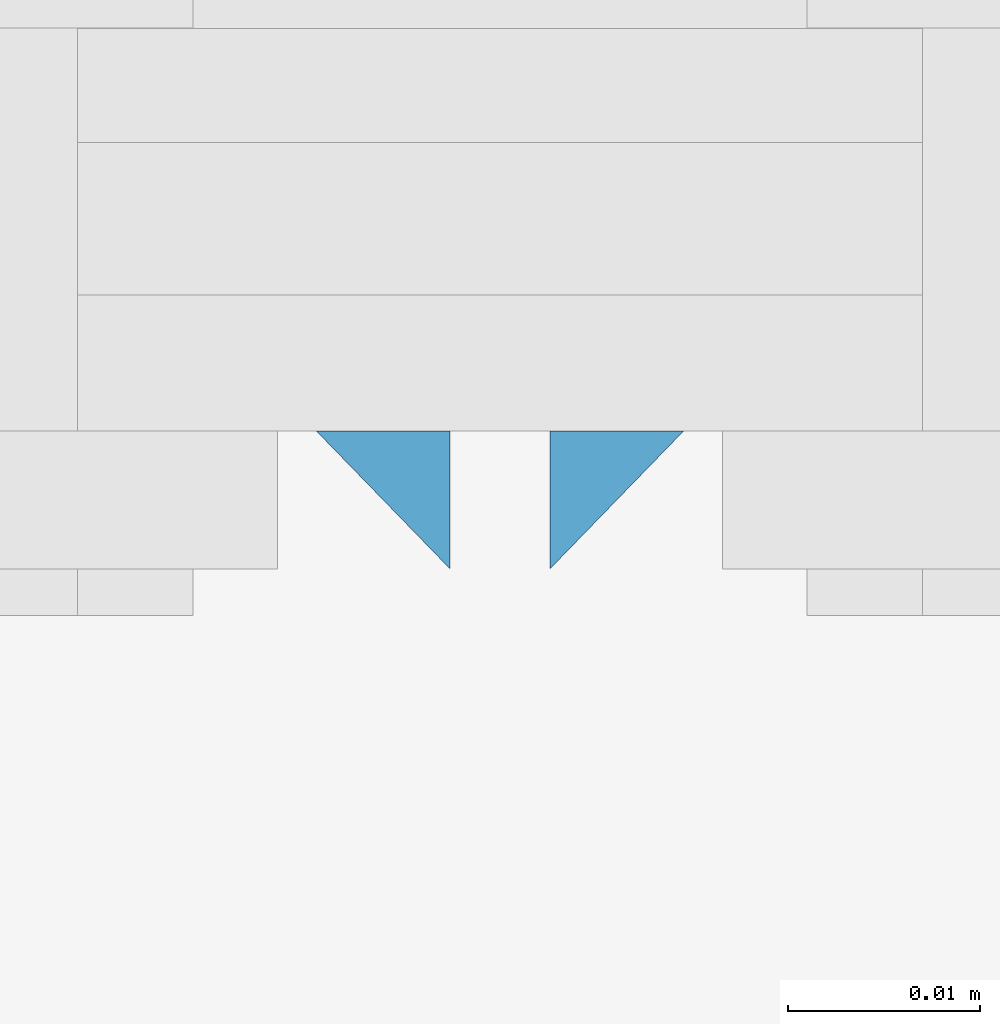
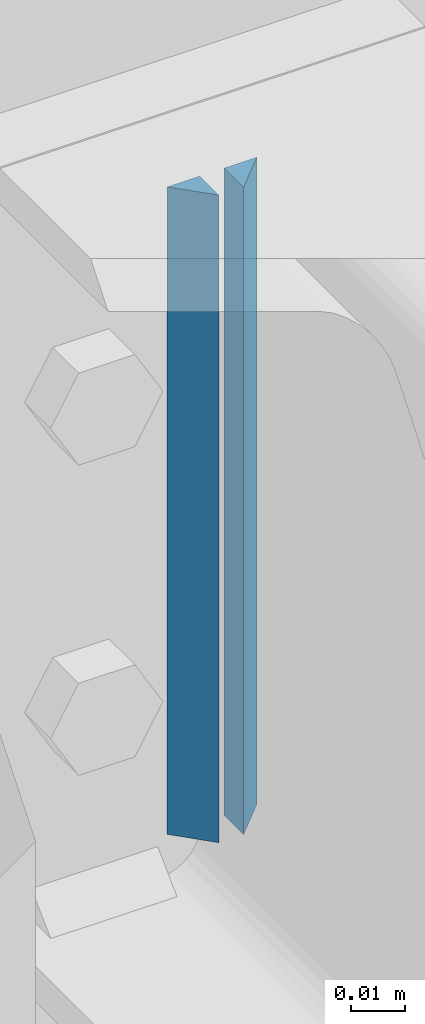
# One storey, part 48 of 251: 4 fasteners.
"""IFC4 building model written with IfcOpenShell, lengths in metres."""

from ifc_helpers import new_model, si_unit, frame, origin_with_axes, place, context, project, spatial, polyline, outline, extrude, type_object, element, save


model = new_model("IFC4")

# Units and contexts
model_context = context("Model", 3, precision=1e-05, world=origin_with_axes())
ifc_project = project(units=[si_unit("LENGTHUNIT", "METRE"), si_unit("AREAUNIT", "SQUARE_METRE"), si_unit("VOLUMEUNIT", "CUBIC_METRE"), si_unit("MASSUNIT", "GRAM", prefix="KILO"), si_unit("TIMEUNIT", "SECOND"), si_unit("PLANEANGLEUNIT", "RADIAN"), si_unit("SOLIDANGLEUNIT", "STERADIAN"), si_unit("THERMODYNAMICTEMPERATUREUNIT", "DEGREE_CELSIUS")], contexts=[model_context])

# Site, building, storey
placement_1 = place(None, origin_with_axes())
site = spatial("IfcSite", under=ifc_project, at=placement_1, Name="Italia", CompositionType="ELEMENT")
building = spatial("IfcBuilding", under=site, at=placement_1, Name="Deposito", CompositionType="ELEMENT")
storey = spatial("IfcBuildingStorey", under=building, at=placement_1, Name="Storey 0", CompositionType="ELEMENT", Elevation=0.0)

# Fasteners
fastener_type_1 = type_object("IfcFastenerType", Name="Collegamento -073_-072", PredefinedType="WELD")
placement_2 = place(placement_1, origin_with_axes())
fastener_1_placement = place(placement_2, origin_with_axes())
element("IfcFastener", 1, at=fastener_1_placement, inside=storey, type_object=fastener_type_1, Name="Collegamento -073_-072", context=model_context, shape_type="SweptSolid", body=[
    extrude(outline(polyline([(0.0, 0.0), (-0.00717354, 0.00695801), (0.0, 0.00695801), (0.0, 0.0)])), frame((6.04044, 19.982, 6.89323), z_axis=(0.0, 0.0, -1.0), x_axis=(0.0, 1.0, 0.0)), (0.0, 0.0, 1.0), 0.146099),
])
fastener_type_2 = type_object("IfcFastenerType", Name="Collegamento -073_-072", PredefinedType="WELD")
fastener_2_placement = place(placement_2, origin_with_axes())
element("IfcFastener", 2, at=fastener_2_placement, inside=storey, type_object=fastener_type_2, Name="Collegamento -073_-072", context=model_context, shape_type="SweptSolid", body=[
    extrude(outline(polyline([(0.0, 0.0), (-0.00717354, 0.00695801), (0.0, 0.00695801), (0.0, 0.0)])), frame((6.05956, 19.982, 6.74713), z_axis=(0.0, 0.0, 1.0), x_axis=(0.0, 1.0, 0.0)), (0.0, 0.0, 1.0), 0.146099),
])
fastener_type_3 = type_object("IfcFastenerType", Name="Collegamento -073_-072", PredefinedType="WELD")
fastener_3_placement = place(placement_2, origin_with_axes())
element("IfcFastener", 3, at=fastener_3_placement, inside=storey, type_object=fastener_type_3, Name="Collegamento -073_-072", context=model_context, shape_type="SweptSolid", body=[
    extrude(outline(polyline([(0.0, 0.0), (-0.00717354, 0.00695801), (0.0, 0.00695801), (0.0, 0.0)])), frame((6.04044, 19.982, 6.89323), z_axis=(0.0, 0.0, -1.0), x_axis=(0.0, 1.0, 0.0)), (0.0, 0.0, 1.0), 0.146099),
])
fastener_type_4 = type_object("IfcFastenerType", Name="Collegamento -073_-072", PredefinedType="WELD")
fastener_4_placement = place(placement_2, origin_with_axes())
element("IfcFastener", 4, at=fastener_4_placement, inside=storey, type_object=fastener_type_4, Name="Collegamento -073_-072", context=model_context, shape_type="SweptSolid", body=[
    extrude(outline(polyline([(0.0, 0.0), (-0.00717354, 0.00695801), (0.0, 0.00695801), (0.0, 0.0)])), frame((6.05956, 19.982, 6.74713), z_axis=(0.0, 0.0, 1.0), x_axis=(0.0, 1.0, 0.0)), (0.0, 0.0, 1.0), 0.146099),
])

save(model, "model.ifc")
